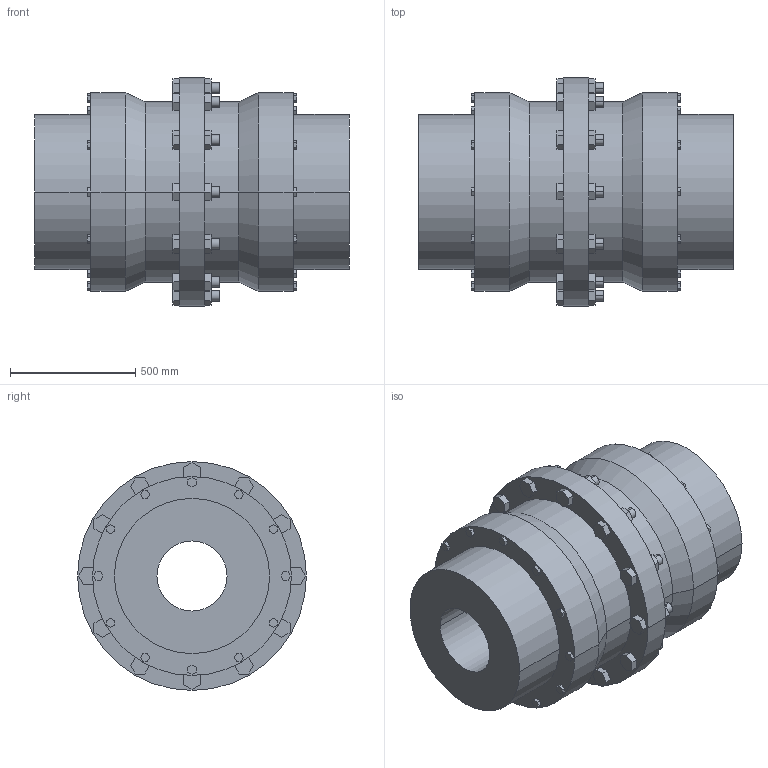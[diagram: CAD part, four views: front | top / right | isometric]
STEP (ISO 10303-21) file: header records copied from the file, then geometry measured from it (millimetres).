
FILE_DESCRIPTION((''),'2;1');
FILE_NAME('A19716800-0_ASM','2019-05-23T',('AB_Roschiwal'),('RENK AG'),'PRO/ENGINEER BY PARAMETRIC TECHNOLOGY CORPORATION, 2015440','PRO/ENGINEER BY PARAMETRIC TECHNOLOGY CORPORATION, 2015440','');
FILE_SCHEMA(('CONFIG_CONTROL_DESIGN'));
Length unit declared in the file: millimetre
Products named in the file (3): SBK375_GEHAEUSE; SBK375_NABE; A19716800-0_ASM
Assembly tree (3 placements, depth 2):
  A19716800-0_ASM
    SBK375_GEHAEUSE
    SBK375_NABE  x2
Bounding box: 1257 x 915 x 915 mm (x, y, z)
Volume: 330457688 mm3; surface area: 8291497.4 mm2
Topology: 3 solids, 3 shells, 422 faces, 1036 edges, 688 vertices
Faces by surface type: plane 362, cylinder 56, cone 4
Entity records: 12052 total; most frequent: CARTESIAN_POINT 2100, ORIENTED_EDGE 2024, DIRECTION 1940, EDGE_CURVE 1012, VECTOR 916, LINE 916, VERTEX_POINT 672, AXIS2_PLACEMENT_3D 512
